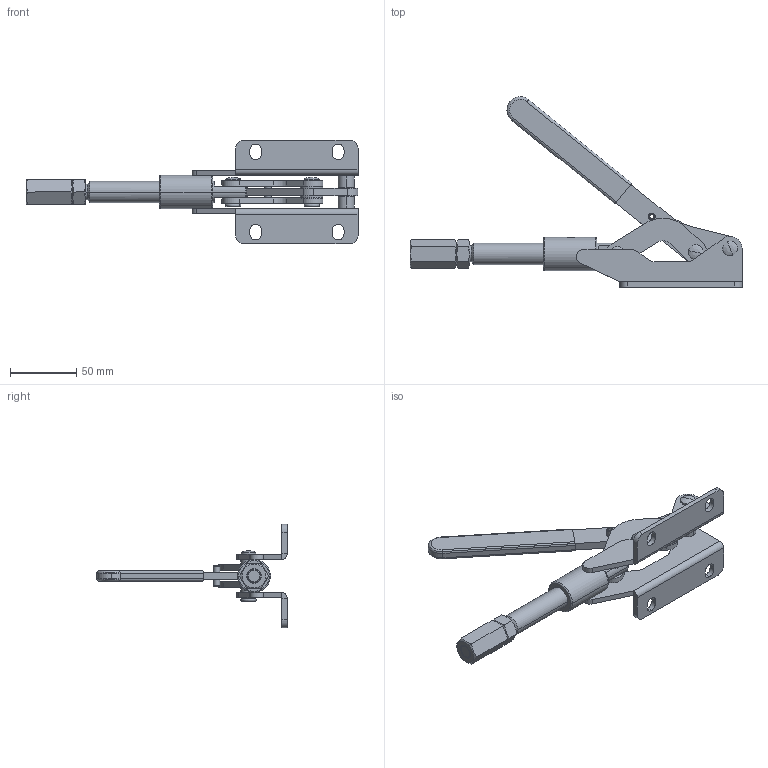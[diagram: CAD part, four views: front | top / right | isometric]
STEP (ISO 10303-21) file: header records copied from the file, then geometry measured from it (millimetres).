
FILE_DESCRIPTION (( 'STEP AP214' ), '1' );
FILE_NAME ('ISK-50B0_AssyT1.STEP', '2021-11-10T07:37:41', ( '' ), ( '' ), 'SwSTEP 2.0', 'SolidWorks 2020', '' );
FILE_SCHEMA (( 'AUTOMOTIVE_DESIGN' ));
Length unit declared in the file: millimetre
Products named in the file (15): spring pin_ab_jis_JIS B 2808 5x16 A W; Collar12_7.2_9.3T1; GuideT1; Base_AssyT1; HandleT1; Rivet_Φ6×17; LinkT1; ArmT1; Rivet_Φ6×33; ISK-50B0_AssyT1; GripT1; finished circular plain washer_jis_JIS B 1256 Finished circular 8; H-Nut_M12L35T1; Nut_M12L10
Assembly tree (18 placements, depth 3):
  ISK-50B0_AssyT1
    Base_AssyT1
      Base_AssyT1
      GuideT1
    ArmT1
    Collar12_7.2_9.3T1  x2
    HandleT1
    LinkT1  x2
    spring pin_ab_jis_JIS B 2808 5x16 A W
    GripT1
    H-Nut_M12L35T1
    Rivet_Φ6×17  x2
    Rivet_Φ6×33
    finished circular plain washer_jis_JIS B 1256 Finished circular 8  x2
    Nut_M12L10
Bounding box: 250 x 143.36 x 78 mm (x, y, z)
Volume: 130365.2 mm3; surface area: 75395.5 mm2
Topology: 18 solids, 18 shells, 297 faces, 696 edges, 434 vertices
Faces by surface type: cylinder 115, plane 110, cone 48, torus 18, bspline 6
Entity records: 8327 total; most frequent: CARTESIAN_POINT 1693, DIRECTION 1338, ORIENTED_EDGE 1174, EDGE_CURVE 587, AXIS2_PLACEMENT_3D 524, VERTEX_POINT 369, VECTOR 290, LINE 290
